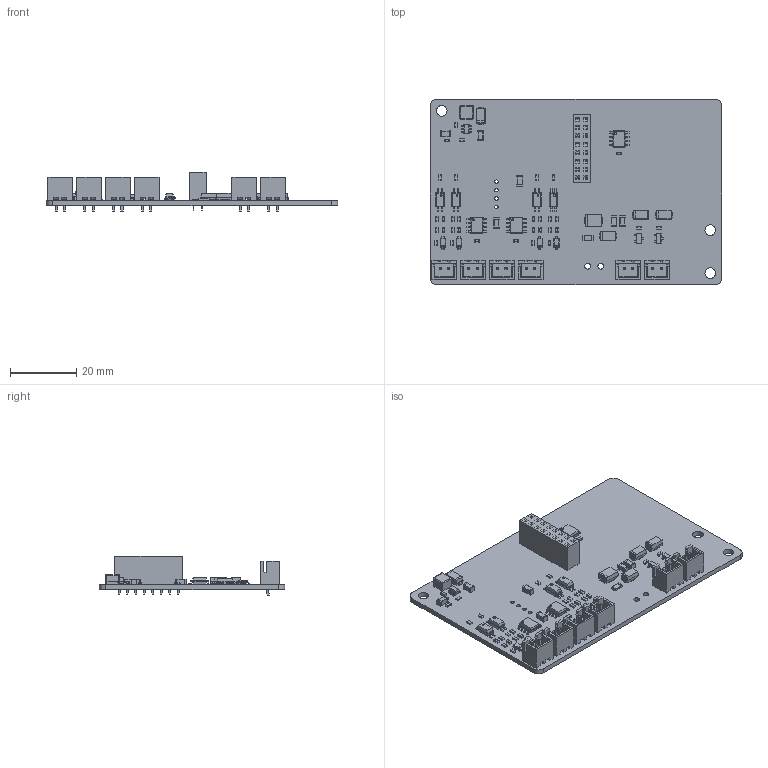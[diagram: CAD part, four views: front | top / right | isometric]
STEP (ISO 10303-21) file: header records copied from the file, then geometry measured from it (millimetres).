
FILE_DESCRIPTION(('KiCad electronic assembly'),'2;1');
FILE_NAME('AP1_Industrial.step','2026-10-06T22:27:43',('Pcbnew'),( 'Kicad'),'Open CASCADE STEP processor 7.6','KiCad to STEP converter' ,'Unknown');
FILE_SCHEMA(('AUTOMOTIVE_DESIGN { 1 0 10303 214 1 1 1 1 }'));
Length unit declared in the file: millimetre
Products named in the file (16): AP1_Industrial 1; R_0603_1608Metric; C_0603_1608Metric; SOP-4_4.4x2.6mm_P1.27mm; JST_XH_B2B-XH-A_1x02_P2.50mm_Vertical; Fuse_1206_3216Metric; L_Changjiang_FNR4030S; C_1206_3216Metric; SOIC-8_3.9x4.9mm_P1.27mm; D_SMA; PinSocket_2x08_P2.54mm_Vertical; D_SOD-123; D_SMB; SOT-23; SOT-23-6; AP1_Industrial_PCB
Assembly tree (67 placements, depth 2):
  AP1_Industrial 1
    R_0603_1608Metric  x24
    C_0603_1608Metric  x8
    SOP-4_4.4x2.6mm_P1.27mm  x4
    JST_XH_B2B-XH-A_1x02_P2.50mm_Vertical  x6
    Fuse_1206_3216Metric
    L_Changjiang_FNR4030S
    C_1206_3216Metric  x6
    SOIC-8_3.9x4.9mm_P1.27mm  x3
    D_SMA  x4
    PinSocket_2x08_P2.54mm_Vertical
    D_SOD-123  x4
    D_SMB
    SOT-23  x2
    SOT-23-6
    AP1_Industrial_PCB
Bounding box: 88 x 56 x 11.9 mm (x, y, z)
Volume: 9576.5 mm3; surface area: 15139.7 mm2
Topology: 67 solids, 67 shells, 3678 faces, 9456 edges, 6008 vertices
Faces by surface type: plane 2520, cylinder 708, bspline 446, sphere 4
Full cylindrical faces by diameter (mm): 0.5 x4, 0.6 x3, 1 x28, 1.075 x4, 1.7 x2, 3.2 x3
Entity records: 39193 total; most frequent: CARTESIAN_POINT 7540, ORIENTED_EDGE 6680, DIRECTION 5934, EDGE_CURVE 3340, LINE 2746, VECTOR 2746, VERTEX_POINT 2116, AXIS2_PLACEMENT_3D 1594
